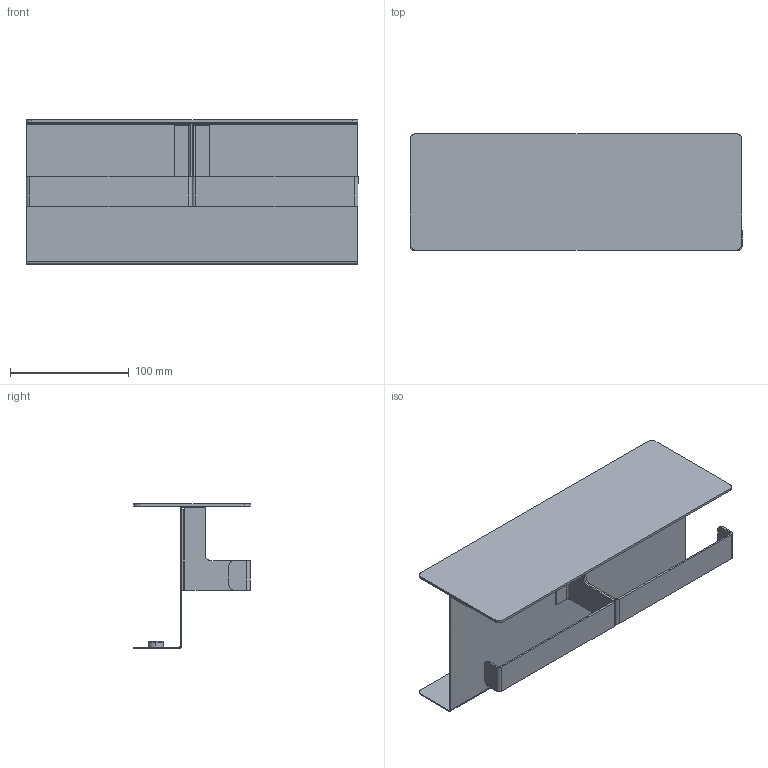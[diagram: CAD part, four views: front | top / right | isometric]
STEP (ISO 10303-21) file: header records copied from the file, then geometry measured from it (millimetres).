
FILE_DESCRIPTION (( 'STEP AP214' ), '1' );
FILE_NAME ('Pó³ka na papier toaletowy COVUU.STEP', '2023-06-28T07:21:05', ( '' ), ( '' ), 'SwSTEP 2.0', 'SolidWorks 2021', '' );
FILE_SCHEMA (( 'AUTOMOTIVE_DESIGN' ));
Length unit declared in the file: millimetre
Products named in the file (6): 03-004-0280-W-00-01; Pó³ka na papier toaletowy COVUU; 03-004-0280-W-00-03P; 03-004-0280-W-00-02; 03-004-0280-W-00-03L; zaœlepka œruby 13mm
Assembly tree (6 placements, depth 2):
  Pó³ka na papier toaletowy COVUU
    03-004-0280-W-00-01
    03-004-0280-W-00-02
    03-004-0280-W-00-03P
    03-004-0280-W-00-03L
    zaœlepka œruby 13mm  x2
Bounding box: 280 x 98 x 122 mm (x, y, z)
Volume: 127010.6 mm3; surface area: 187622.8 mm2
Topology: 6 solids, 6 shells, 124 faces, 268 edges, 156 vertices
Faces by surface type: plane 82, cylinder 38, torus 4
Entity records: 3408 total; most frequent: DIRECTION 588, CARTESIAN_POINT 535, ORIENTED_EDGE 516, EDGE_CURVE 258, AXIS2_PLACEMENT_3D 203, VECTOR 182, LINE 182, VERTEX_POINT 150
